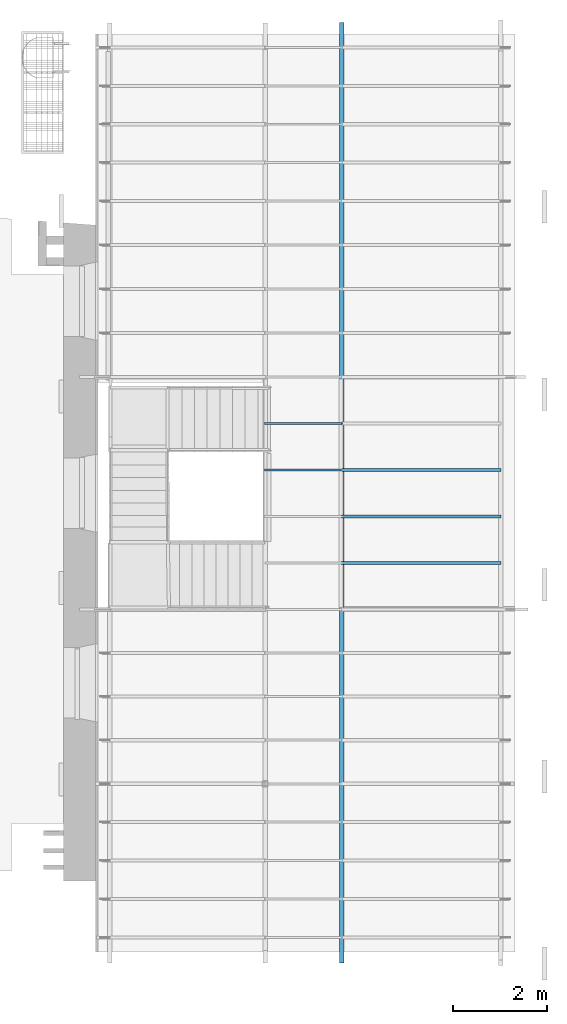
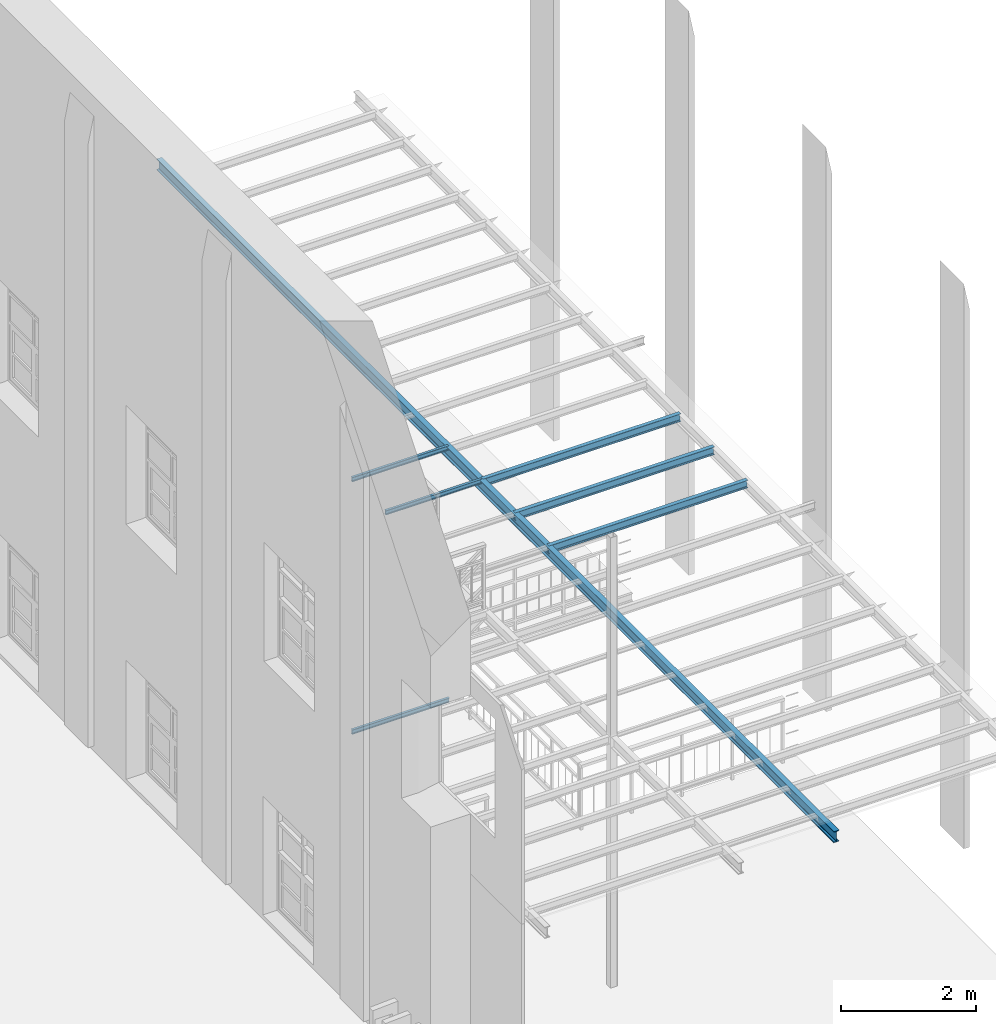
# One storey, part 14 of 33: 7 beams.
"""IFC2X3 building model written with IfcOpenShell, lengths in metres."""

from ifc_helpers import new_model, entity, si_unit, converted_unit, derived_unit, direction, frame, frame_2d, origin, place, context, subcontext, project, spatial, polyline, circle_curve, parameter, trimmed, segment, composite_curve, outline, extrude, material, type_object, element, save


model = new_model("IFC2X3")

# Units and contexts
model_context = context("Model", 3, precision=1e-05, world=origin(), true_north=direction((6.12303176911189e-17, 1.0)))
body_context = subcontext(model_context, "Body", "Model", "MODEL_VIEW")
ifc_project = project(units=[si_unit("LENGTHUNIT", "METRE"), si_unit("AREAUNIT", "SQUARE_METRE"), si_unit("VOLUMEUNIT", "CUBIC_METRE"), converted_unit("PLANEANGLEUNIT", "DEGREE", entity("IfcRatioMeasure", 0.0174532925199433), si_unit("PLANEANGLEUNIT", "RADIAN"), dimensions=[0, 0, 0, 0, 0, 0, 0]), si_unit("MASSUNIT", "GRAM", prefix="KILO"), derived_unit("MASSDENSITYUNIT", [(si_unit("MASSUNIT", "GRAM", prefix="KILO"), 1), (si_unit("LENGTHUNIT", "METRE"), -3)]), derived_unit("MOMENTOFINERTIAUNIT", [(si_unit("LENGTHUNIT", "METRE"), 4)]), si_unit("TIMEUNIT", "SECOND"), si_unit("FREQUENCYUNIT", "HERTZ"), si_unit("THERMODYNAMICTEMPERATUREUNIT", "DEGREE_CELSIUS"), derived_unit("THERMALTRANSMITTANCEUNIT", [(si_unit("MASSUNIT", "GRAM", prefix="KILO"), 1), (si_unit("THERMODYNAMICTEMPERATUREUNIT", "KELVIN"), -1), (si_unit("TIMEUNIT", "SECOND"), -3)]), derived_unit("VOLUMETRICFLOWRATEUNIT", [(si_unit("LENGTHUNIT", "METRE"), 3), (si_unit("TIMEUNIT", "SECOND"), -1)]), si_unit("ELECTRICCURRENTUNIT", "AMPERE"), si_unit("ELECTRICVOLTAGEUNIT", "VOLT"), si_unit("POWERUNIT", "WATT"), si_unit("FORCEUNIT", "NEWTON", prefix="KILO"), si_unit("ILLUMINANCEUNIT", "LUX"), si_unit("LUMINOUSFLUXUNIT", "LUMEN"), si_unit("LUMINOUSINTENSITYUNIT", "CANDELA"), derived_unit("USERDEFINED", [(si_unit("MASSUNIT", "GRAM", prefix="KILO"), -1), (si_unit("LENGTHUNIT", "METRE"), -2), (si_unit("TIMEUNIT", "SECOND"), 3), (si_unit("LUMINOUSFLUXUNIT", "LUMEN"), 1)]), derived_unit("LINEARVELOCITYUNIT", [(si_unit("LENGTHUNIT", "METRE"), 1), (si_unit("TIMEUNIT", "SECOND"), -1)]), si_unit("PRESSUREUNIT", "PASCAL"), derived_unit("USERDEFINED", [(si_unit("LENGTHUNIT", "METRE"), -2), (si_unit("MASSUNIT", "GRAM", prefix="KILO"), 1), (si_unit("TIMEUNIT", "SECOND"), -2)]), derived_unit("LINEARFORCEUNIT", [(si_unit("MASSUNIT", "GRAM", prefix="KILO"), 1), (si_unit("LENGTHUNIT", "METRE"), 1), (si_unit("TIMEUNIT", "SECOND"), -2), (si_unit("LENGTHUNIT", "METRE"), -1)]), derived_unit("PLANARFORCEUNIT", [(si_unit("MASSUNIT", "GRAM", prefix="KILO"), 1), (si_unit("LENGTHUNIT", "METRE"), 1), (si_unit("TIMEUNIT", "SECOND"), -2), (si_unit("LENGTHUNIT", "METRE"), -2)])], contexts=[model_context])

# Site, building, storey
site_placement = place(None, origin())
site = spatial("IfcSite", under=ifc_project, at=site_placement, Name="Superficie", CompositionType="ELEMENT")
building_placement = place(site_placement, origin())
building = spatial("IfcBuilding", under=site, at=building_placement, Name="Telegestiones", CompositionType="ELEMENT")
storey_placement = place(building_placement, frame((0.0, 0.0, 4.94)))
storey = spatial("IfcBuildingStorey", under=building, at=storey_placement, Name="Nivel 1_NPT", CompositionType="ELEMENT", Elevation=4.94)

# Beams
ifc_material = material(Name="Metal - Acero - 345 MPa")
beam_type_1 = type_object("IfcBeamType", Name="IPN - Secciones en I con alas cónicas:IPN 200", PredefinedType="NOTDEFINED")
beam_1_placement = place(storey_placement, frame((11.2748126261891, 13.4536072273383, 4.56), z_axis=(0.0, 0.0, 1.0), x_axis=(0.0, -1.0, 0.0)))
element("IfcBeam", 1, at=beam_1_placement, inside=storey, type_object=beam_type_1, material=ifc_material, Name="IPN - Secciones en I con alas cónicas:IPN 200", ObjectType="IPN - Secciones en I con alas cónicas:IPN 200", context=body_context, shape_type="SweptSolid", body=[
    extrude(outline(composite_curve([segment(polyline([(0.0957638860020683, -0.0450000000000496), (0.0999999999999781, -0.0450000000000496)]), True, "CONTINUOUS"), segment(polyline([(0.0999999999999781, -0.0450000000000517), (0.100000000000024, 0.0449999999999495)]), True, "CONTINUOUS"), segment(polyline([(0.100000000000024, 0.0449999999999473), (0.0957638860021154, 0.0449999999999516)]), True, "CONTINUOUS"), segment(trimmed(circle_curve(frame_2d((0.0957638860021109, 0.0404999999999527), x_axis=(0.0, 1.0)), 0.00449999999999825), [parameter(0.0)], [parameter(82.0303896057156)], True, "PARAMETER"), True, "CONTINUOUS"), segment(polyline([(0.0913073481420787, 0.0411239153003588), (0.0869794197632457, 0.0102101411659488)]), True, "CONTINUOUS"), segment(trimmed(circle_curve(frame_2d((0.0795518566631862, 0.0112499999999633), x_axis=(0.990341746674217, -0.138647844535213)), 0.00750000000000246), [parameter(277.969610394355)], [parameter(0.0)], True, "PARAMETER"), False, "CONTINUOUS"), segment(polyline([(0.0795518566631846, 0.00374999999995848), (-0.0795518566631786, 0.00375000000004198)]), True, "CONTINUOUS"), segment(trimmed(circle_curve(frame_2d((-0.0795518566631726, 0.0112500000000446), x_axis=(0.0, -1.0)), 0.00750000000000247), [parameter(277.969610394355)], [parameter(0.0)], True, "PARAMETER"), False, "CONTINUOUS"), segment(polyline([(-0.0869794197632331, 0.0102101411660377), (-0.0913073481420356, 0.0411239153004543)]), True, "CONTINUOUS"), segment(trimmed(circle_curve(frame_2d((-0.0957638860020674, 0.0405000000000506), x_axis=(0.990341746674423, 0.138647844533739)), 0.00449999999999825), [parameter(0.0)], [parameter(82.0303896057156)], True, "PARAMETER"), True, "CONTINUOUS"), segment(polyline([(-0.0957638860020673, 0.0450000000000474), (-0.0999999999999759, 0.0450000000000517)]), True, "CONTINUOUS"), segment(polyline([(-0.0999999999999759, 0.0450000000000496), (-0.100000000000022, -0.0449999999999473)]), True, "CONTINUOUS"), segment(polyline([(-0.100000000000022, -0.0449999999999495), (-0.0957638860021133, -0.0449999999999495)]), True, "CONTINUOUS"), segment(trimmed(circle_curve(frame_2d((-0.0957638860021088, -0.0404999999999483), x_axis=(0.0, -1.0)), 0.00449999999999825), [parameter(0.0)], [parameter(82.0303896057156)], True, "PARAMETER"), True, "CONTINUOUS"), segment(polyline([(-0.0913073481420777, -0.0411239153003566), (-0.0869794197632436, -0.0102101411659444)]), True, "CONTINUOUS"), segment(trimmed(circle_curve(frame_2d((-0.0795518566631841, -0.0112499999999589), x_axis=(-0.990341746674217, 0.138647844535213)), 0.00750000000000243), [parameter(277.969610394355)], [parameter(0.0)], True, "PARAMETER"), False, "CONTINUOUS"), segment(polyline([(-0.0795518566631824, -0.00374999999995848), (0.0795518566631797, -0.00375000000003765)]), True, "CONTINUOUS"), segment(trimmed(circle_curve(frame_2d((0.0795518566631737, -0.0112500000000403), x_axis=(0.0, 1.0)), 0.00750000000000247), [parameter(277.969610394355)], [parameter(0.0)], True, "PARAMETER"), False, "CONTINUOUS"), segment(polyline([(0.0869794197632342, -0.0102101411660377), (0.0913073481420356, -0.04112391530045)]), True, "CONTINUOUS"), segment(trimmed(circle_curve(frame_2d((0.0957638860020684, -0.0405000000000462), x_axis=(-0.990341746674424, -0.138647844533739)), 0.00449999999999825), [parameter(0.0)], [parameter(82.0303896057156)], True, "PARAMETER"), True, "CONTINUOUS")], self_intersect=False)), frame((-0.539999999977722, 0.0, -0.130000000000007), z_axis=(1.0, 0.0, 0.0), x_axis=(0.0, 0.0, -1.0)), (0.0, 0.0, 1.0), 20.0399999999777),
])
beam_type_2 = type_object("IfcBeamType", Name="IPN - Secciones en I con alas cónicas:IPN 140", PredefinedType="NOTDEFINED")
beam_2_placement = place(storey_placement, frame((11.2748126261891, 4.45520196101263, 4.56)))
element("IfcBeam", 2, at=beam_2_placement, inside=storey, type_object=beam_type_2, material=ifc_material, Name="IPN - Secciones en I con alas cónicas:IPN 140", ObjectType="IPN - Secciones en I con alas cónicas:IPN 140", context=body_context, shape_type="SweptSolid", body=[
    extrude(outline(composite_curve([segment(polyline([(0.066667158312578, -0.0330000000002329), (0.0699999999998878, -0.0330000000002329)]), True, "CONTINUOUS"), segment(polyline([(0.0699999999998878, -0.0330000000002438), (0.0700000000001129, 0.0329999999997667)]), True, "CONTINUOUS"), segment(polyline([(0.0700000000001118, 0.0329999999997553), (0.0666671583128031, 0.0329999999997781)]), True, "CONTINUOUS"), segment(trimmed(circle_curve(frame_2d((0.0666671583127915, 0.0295999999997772), x_axis=(0.0, 1.0)), 0.0034000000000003), [parameter(0.0)], [parameter(82.0303896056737)], True, "PARAMETER"), True, "CONTINUOUS"), segment(polyline([(0.0632999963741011, 0.0300714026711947), (0.0601763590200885, 0.00775970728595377)]), True, "CONTINUOUS"), segment(trimmed(circle_curve(frame_2d((0.0545314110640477, 0.00854999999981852), x_axis=(0.990341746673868, -0.138647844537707)), 0.00569999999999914), [parameter(277.969610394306)], [parameter(0.0)], True, "PARAMETER"), False, "CONTINUOUS"), segment(polyline([(0.0545314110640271, 0.0028499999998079), (-0.0545314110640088, 0.00285000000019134)]), True, "CONTINUOUS"), segment(trimmed(circle_curve(frame_2d((-0.0545314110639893, 0.00855000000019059), x_axis=(0.0, -1.0)), 0.00569999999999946), [parameter(277.969610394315)], [parameter(0.0)], True, "PARAMETER"), False, "CONTINUOUS"), segment(polyline([(-0.0601763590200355, 0.00775970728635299), (-0.0632999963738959, 0.0300714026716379)]), True, "CONTINUOUS"), segment(trimmed(circle_curve(frame_2d((-0.0666671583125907, 0.0296000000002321), x_axis=(0.990341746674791, 0.138647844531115)), 0.0034000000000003), [parameter(0.0)], [parameter(82.0303896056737)], True, "PARAMETER"), True, "CONTINUOUS"), segment(polyline([(-0.0666671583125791, 0.0330000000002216), (-0.0699999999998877, 0.0330000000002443)]), True, "CONTINUOUS"), segment(polyline([(-0.0699999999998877, 0.0330000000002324), (-0.0700000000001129, -0.0329999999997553)]), True, "CONTINUOUS"), segment(polyline([(-0.0700000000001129, -0.0329999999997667), (-0.0666671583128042, -0.0329999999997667)]), True, "CONTINUOUS"), segment(trimmed(circle_curve(frame_2d((-0.0666671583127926, -0.0295999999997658), x_axis=(0.0, -1.0)), 0.0034000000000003), [parameter(0.0)], [parameter(82.0303896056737)], True, "PARAMETER"), True, "CONTINUOUS"), segment(polyline([(-0.0632999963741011, -0.0300714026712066), (-0.0601763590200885, -0.00775970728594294)]), True, "CONTINUOUS"), segment(trimmed(circle_curve(frame_2d((-0.0545314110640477, -0.00854999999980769), x_axis=(-0.990341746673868, 0.138647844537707)), 0.00569999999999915), [parameter(277.969610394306)], [parameter(0.0)], True, "PARAMETER"), False, "CONTINUOUS"), segment(polyline([(-0.0545314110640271, -0.00284999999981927), (0.0545314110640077, -0.00285000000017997)]), True, "CONTINUOUS"), segment(trimmed(circle_curve(frame_2d((0.0545314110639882, -0.00855000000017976), x_axis=(0.0, 1.0)), 0.00569999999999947), [parameter(277.969610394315)], [parameter(0.0)], True, "PARAMETER"), False, "CONTINUOUS"), segment(polyline([(0.0601763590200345, -0.0077597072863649), (0.0632999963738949, -0.0300714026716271)]), True, "CONTINUOUS"), segment(trimmed(circle_curve(frame_2d((0.0666671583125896, -0.0296000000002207), x_axis=(-0.990341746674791, -0.138647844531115)), 0.0034000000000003), [parameter(0.0)], [parameter(82.0303896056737)], True, "PARAMETER"), True, "CONTINUOUS")], self_intersect=False)), frame((0.0039999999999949, 0.0, -0.100000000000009), z_axis=(1.0, 0.0, 0.0), x_axis=(0.0, 0.0, -1.0)), (0.0, 0.0, 1.0), 3.386),
])
beam_3_placement = place(storey_placement, frame((11.2748126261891, 3.46499932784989, 4.56)))
element("IfcBeam", 3, at=beam_3_placement, inside=storey, type_object=beam_type_2, material=ifc_material, Name="IPN - Secciones en I con alas cónicas:IPN 140", ObjectType="IPN - Secciones en I con alas cónicas:IPN 140", context=body_context, shape_type="SweptSolid", body=[
    extrude(outline(composite_curve([segment(polyline([(0.066667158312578, -0.0330000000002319), (0.0699999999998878, -0.0330000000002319)]), True, "CONTINUOUS"), segment(polyline([(0.0699999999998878, -0.0330000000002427), (0.0700000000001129, 0.0329999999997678)]), True, "CONTINUOUS"), segment(polyline([(0.0700000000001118, 0.0329999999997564), (0.0666671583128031, 0.0329999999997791)]), True, "CONTINUOUS"), segment(trimmed(circle_curve(frame_2d((0.0666671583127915, 0.0295999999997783), x_axis=(0.0, 1.0)), 0.0034000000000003), [parameter(0.0)], [parameter(82.0303896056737)], True, "PARAMETER"), True, "CONTINUOUS"), segment(polyline([(0.0632999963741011, 0.0300714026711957), (0.0601763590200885, 0.00775970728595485)]), True, "CONTINUOUS"), segment(trimmed(circle_curve(frame_2d((0.0545314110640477, 0.0085499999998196), x_axis=(0.990341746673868, -0.138647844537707)), 0.00569999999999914), [parameter(277.969610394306)], [parameter(0.0)], True, "PARAMETER"), False, "CONTINUOUS"), segment(polyline([(0.0545314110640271, 0.00284999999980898), (-0.0545314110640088, 0.00285000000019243)]), True, "CONTINUOUS"), segment(trimmed(circle_curve(frame_2d((-0.0545314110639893, 0.00855000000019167), x_axis=(0.0, -1.0)), 0.00569999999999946), [parameter(277.969610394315)], [parameter(0.0)], True, "PARAMETER"), False, "CONTINUOUS"), segment(polyline([(-0.0601763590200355, 0.00775970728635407), (-0.0632999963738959, 0.030071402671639)]), True, "CONTINUOUS"), segment(trimmed(circle_curve(frame_2d((-0.0666671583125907, 0.0296000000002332), x_axis=(0.990341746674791, 0.138647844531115)), 0.0034000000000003), [parameter(0.0)], [parameter(82.0303896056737)], True, "PARAMETER"), True, "CONTINUOUS"), segment(polyline([(-0.0666671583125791, 0.0330000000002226), (-0.0699999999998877, 0.0330000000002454)]), True, "CONTINUOUS"), segment(polyline([(-0.0699999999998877, 0.0330000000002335), (-0.0700000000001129, -0.0329999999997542)]), True, "CONTINUOUS"), segment(polyline([(-0.0700000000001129, -0.0329999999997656), (-0.0666671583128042, -0.0329999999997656)]), True, "CONTINUOUS"), segment(trimmed(circle_curve(frame_2d((-0.0666671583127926, -0.0295999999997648), x_axis=(0.0, -1.0)), 0.0034000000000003), [parameter(0.0)], [parameter(82.0303896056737)], True, "PARAMETER"), True, "CONTINUOUS"), segment(polyline([(-0.0632999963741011, -0.0300714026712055), (-0.0601763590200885, -0.00775970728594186)]), True, "CONTINUOUS"), segment(trimmed(circle_curve(frame_2d((-0.0545314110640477, -0.00854999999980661), x_axis=(-0.990341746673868, 0.138647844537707)), 0.00569999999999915), [parameter(277.969610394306)], [parameter(0.0)], True, "PARAMETER"), False, "CONTINUOUS"), segment(polyline([(-0.0545314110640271, -0.00284999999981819), (0.0545314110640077, -0.00285000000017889)]), True, "CONTINUOUS"), segment(trimmed(circle_curve(frame_2d((0.0545314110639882, -0.00855000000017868), x_axis=(0.0, 1.0)), 0.00569999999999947), [parameter(277.969610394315)], [parameter(0.0)], True, "PARAMETER"), False, "CONTINUOUS"), segment(polyline([(0.0601763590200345, -0.00775970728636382), (0.0632999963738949, -0.030071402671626)]), True, "CONTINUOUS"), segment(trimmed(circle_curve(frame_2d((0.0666671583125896, -0.0296000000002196), x_axis=(-0.990341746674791, -0.138647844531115)), 0.0034000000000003), [parameter(0.0)], [parameter(82.0303896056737)], True, "PARAMETER"), True, "CONTINUOUS")], self_intersect=False)), frame((-0.0150000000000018, 0.0, -0.100000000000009), z_axis=(1.0, 0.0, 0.0), x_axis=(0.0, 0.0, -1.0)), (0.0, 0.0, 1.0), 3.405),
])
beam_4_placement = place(storey_placement, frame((11.2748126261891, 2.47479669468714, 4.56)))
element("IfcBeam", 4, at=beam_4_placement, inside=storey, type_object=beam_type_2, material=ifc_material, Name="IPN - Secciones en I con alas cónicas:IPN 140", ObjectType="IPN - Secciones en I con alas cónicas:IPN 140", context=body_context, shape_type="SweptSolid", body=[
    extrude(outline(composite_curve([segment(polyline([(0.066667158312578, -0.0330000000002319), (0.0699999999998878, -0.0330000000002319)]), True, "CONTINUOUS"), segment(polyline([(0.0699999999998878, -0.0330000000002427), (0.0700000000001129, 0.0329999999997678)]), True, "CONTINUOUS"), segment(polyline([(0.0700000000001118, 0.0329999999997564), (0.0666671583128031, 0.0329999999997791)]), True, "CONTINUOUS"), segment(trimmed(circle_curve(frame_2d((0.0666671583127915, 0.0295999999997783), x_axis=(0.0, 1.0)), 0.0034000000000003), [parameter(0.0)], [parameter(82.0303896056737)], True, "PARAMETER"), True, "CONTINUOUS"), segment(polyline([(0.0632999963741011, 0.0300714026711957), (0.0601763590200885, 0.00775970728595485)]), True, "CONTINUOUS"), segment(trimmed(circle_curve(frame_2d((0.0545314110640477, 0.0085499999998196), x_axis=(0.990341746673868, -0.138647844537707)), 0.00569999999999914), [parameter(277.969610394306)], [parameter(0.0)], True, "PARAMETER"), False, "CONTINUOUS"), segment(polyline([(0.0545314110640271, 0.00284999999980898), (-0.0545314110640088, 0.00285000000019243)]), True, "CONTINUOUS"), segment(trimmed(circle_curve(frame_2d((-0.0545314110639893, 0.00855000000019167), x_axis=(0.0, -1.0)), 0.00569999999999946), [parameter(277.969610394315)], [parameter(0.0)], True, "PARAMETER"), False, "CONTINUOUS"), segment(polyline([(-0.0601763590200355, 0.00775970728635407), (-0.0632999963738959, 0.030071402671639)]), True, "CONTINUOUS"), segment(trimmed(circle_curve(frame_2d((-0.0666671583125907, 0.0296000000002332), x_axis=(0.990341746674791, 0.138647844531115)), 0.0034000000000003), [parameter(0.0)], [parameter(82.0303896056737)], True, "PARAMETER"), True, "CONTINUOUS"), segment(polyline([(-0.0666671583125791, 0.0330000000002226), (-0.0699999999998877, 0.0330000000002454)]), True, "CONTINUOUS"), segment(polyline([(-0.0699999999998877, 0.0330000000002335), (-0.0700000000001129, -0.0329999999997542)]), True, "CONTINUOUS"), segment(polyline([(-0.0700000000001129, -0.0329999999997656), (-0.0666671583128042, -0.0329999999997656)]), True, "CONTINUOUS"), segment(trimmed(circle_curve(frame_2d((-0.0666671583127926, -0.0295999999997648), x_axis=(0.0, -1.0)), 0.0034000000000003), [parameter(0.0)], [parameter(82.0303896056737)], True, "PARAMETER"), True, "CONTINUOUS"), segment(polyline([(-0.0632999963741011, -0.0300714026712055), (-0.0601763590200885, -0.00775970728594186)]), True, "CONTINUOUS"), segment(trimmed(circle_curve(frame_2d((-0.0545314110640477, -0.00854999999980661), x_axis=(-0.990341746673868, 0.138647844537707)), 0.00569999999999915), [parameter(277.969610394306)], [parameter(0.0)], True, "PARAMETER"), False, "CONTINUOUS"), segment(polyline([(-0.0545314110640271, -0.00284999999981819), (0.0545314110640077, -0.00285000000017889)]), True, "CONTINUOUS"), segment(trimmed(circle_curve(frame_2d((0.0545314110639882, -0.00855000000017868), x_axis=(0.0, 1.0)), 0.00569999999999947), [parameter(277.969610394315)], [parameter(0.0)], True, "PARAMETER"), False, "CONTINUOUS"), segment(polyline([(0.0601763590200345, -0.00775970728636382), (0.0632999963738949, -0.030071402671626)]), True, "CONTINUOUS"), segment(trimmed(circle_curve(frame_2d((0.0666671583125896, -0.0296000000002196), x_axis=(-0.990341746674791, -0.138647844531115)), 0.0034000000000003), [parameter(0.0)], [parameter(82.0303896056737)], True, "PARAMETER"), True, "CONTINUOUS")], self_intersect=False)), frame((-0.0150000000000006, 0.0, -0.100000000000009), z_axis=(1.0, 0.0, 0.0), x_axis=(0.0, 0.0, -1.0)), (0.0, 0.0, 1.0), 3.405),
])
beam_type_3 = type_object("IfcBeamType", Name="IPN - Secciones en I con alas cónicas:IPN 80", PredefinedType="NOTDEFINED")
beam_5_placement = place(storey_placement, frame((9.64481262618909, 5.44540459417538, 0.0)))
element("IfcBeam", 5, at=beam_5_placement, inside=storey, type_object=beam_type_3, material=ifc_material, Name="IPN - Secciones en I con alas cónicas:IPN 80", ObjectType="IPN - Secciones en I con alas cónicas:IPN 80", context=body_context, shape_type="SweptSolid", body=[
    extrude(outline(composite_curve([segment(polyline([(0.0375704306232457, -0.0210000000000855), (0.0399999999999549, -0.0210000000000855)]), True, "CONTINUOUS"), segment(polyline([(0.0399999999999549, -0.0210000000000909), (0.0400000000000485, 0.0209999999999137)]), True, "CONTINUOUS"), segment(polyline([(0.0400000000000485, 0.0209999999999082), (0.0375704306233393, 0.0209999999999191)]), True, "CONTINUOUS"), segment(trimmed(circle_curve(frame_2d((0.0375704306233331, 0.0186999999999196), x_axis=(0.0, 1.0)), 0.00229999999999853), [parameter(0.0)], [parameter(82.0303896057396)], True, "PARAMETER"), True, "CONTINUOUS"), segment(polyline([(0.0352926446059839, 0.0190188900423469), (0.0333732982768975, 0.00530927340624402)]), True, "CONTINUOUS"), segment(trimmed(circle_curve(frame_2d((0.0295109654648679, 0.00584999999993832), x_axis=(0.99034174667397, -0.138647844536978)), 0.00390000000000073), [parameter(277.96961039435)], [parameter(0.0)], True, "PARAMETER"), False, "CONTINUOUS"), segment(polyline([(0.0295109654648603, 0.00194999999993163), (-0.0295109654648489, 0.00195000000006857)]), True, "CONTINUOUS"), segment(trimmed(circle_curve(frame_2d((-0.0295109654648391, 0.00585000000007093), x_axis=(0.0, -1.0)), 0.00390000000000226), [parameter(277.969610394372)], [parameter(0.0)], True, "PARAMETER"), False, "CONTINUOUS"), segment(polyline([(-0.0333732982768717, 0.00530927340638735), (-0.035292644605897, 0.0190188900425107)]), True, "CONTINUOUS"), segment(trimmed(circle_curve(frame_2d((-0.037570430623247, 0.0187000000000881), x_axis=(0.990341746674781, 0.138647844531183)), 0.00229999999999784), [parameter(0.0)], [parameter(82.0303896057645)], True, "PARAMETER"), True, "CONTINUOUS"), segment(polyline([(-0.037570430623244, 0.0210000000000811), (-0.0399999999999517, 0.0210000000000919)]), True, "CONTINUOUS"), segment(polyline([(-0.0399999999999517, 0.0210000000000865), (-0.0400000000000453, -0.0209999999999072)]), True, "CONTINUOUS"), segment(polyline([(-0.0400000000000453, -0.0209999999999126), (-0.0375704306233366, -0.0209999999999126)]), True, "CONTINUOUS"), segment(trimmed(circle_curve(frame_2d((-0.0375704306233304, -0.0186999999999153), x_axis=(0.0, -1.0)), 0.00229999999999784), [parameter(0.0)], [parameter(82.0303896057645)], True, "PARAMETER"), True, "CONTINUOUS"), segment(polyline([(-0.0352926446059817, -0.0190188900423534), (-0.0333732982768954, -0.0053092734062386)]), True, "CONTINUOUS"), segment(trimmed(circle_curve(frame_2d((-0.0295109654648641, -0.00584999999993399), x_axis=(-0.990341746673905, 0.138647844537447)), 0.00390000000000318), [parameter(277.969610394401)], [parameter(0.0)], True, "PARAMETER"), False, "CONTINUOUS"), segment(polyline([(-0.0295109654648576, -0.00194999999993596), (0.0295109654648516, -0.00195000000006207)]), True, "CONTINUOUS"), segment(trimmed(circle_curve(frame_2d((0.0295109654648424, -0.00585000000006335), x_axis=(0.0, 1.0)), 0.00390000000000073), [parameter(277.96961039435)], [parameter(0.0)], True, "PARAMETER"), False, "CONTINUOUS"), segment(polyline([(0.0333732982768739, -0.00530927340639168), (0.0352926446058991, -0.0190188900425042)]), True, "CONTINUOUS"), segment(trimmed(circle_curve(frame_2d((0.0375704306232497, -0.0187000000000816), x_axis=(-0.990341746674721, -0.138647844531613)), 0.00229999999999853), [parameter(0.0)], [parameter(82.0303896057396)], True, "PARAMETER"), True, "CONTINUOUS")], self_intersect=False)), frame((-0.0149999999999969, 0.0, -0.0700000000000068), z_axis=(1.0, 0.0, 0.0), x_axis=(0.0, 0.0, -1.0)), (0.0, 0.0, 1.0), 1.66),
])
beam_6_placement = place(storey_placement, frame((9.64481262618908, 4.45520196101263, 4.56)))
element("IfcBeam", 6, at=beam_6_placement, inside=storey, type_object=beam_type_3, material=ifc_material, Name="IPN - Secciones en I con alas cónicas:IPN 80", ObjectType="IPN - Secciones en I con alas cónicas:IPN 80", context=body_context, shape_type="SweptSolid", body=[
    extrude(outline(composite_curve([segment(polyline([(0.0375704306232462, -0.021000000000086), (0.0399999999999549, -0.021000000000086)]), True, "CONTINUOUS"), segment(polyline([(0.0399999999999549, -0.0210000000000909), (0.0400000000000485, 0.0209999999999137)]), True, "CONTINUOUS"), segment(polyline([(0.0400000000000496, 0.0209999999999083), (0.0375704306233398, 0.0209999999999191)]), True, "CONTINUOUS"), segment(trimmed(circle_curve(frame_2d((0.0375704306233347, 0.0186999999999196), x_axis=(0.0, 1.0)), 0.00229999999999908), [parameter(0.0)], [parameter(82.0303896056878)], True, "PARAMETER"), True, "CONTINUOUS"), segment(polyline([(0.035292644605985, 0.019018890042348), (0.0333732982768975, 0.00530927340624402)]), True, "CONTINUOUS"), segment(trimmed(circle_curve(frame_2d((0.0295109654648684, 0.00584999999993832), x_axis=(0.990341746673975, -0.13864784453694)), 0.00390000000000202), [parameter(277.969610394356)], [parameter(0.0)], True, "PARAMETER"), False, "CONTINUOUS"), segment(polyline([(0.0295109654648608, 0.00194999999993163), (-0.0295109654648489, 0.00195000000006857)]), True, "CONTINUOUS"), segment(trimmed(circle_curve(frame_2d((-0.0295109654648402, 0.00585000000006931), x_axis=(0.0, -1.0)), 0.00390000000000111), [parameter(277.969610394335)], [parameter(0.0)], True, "PARAMETER"), False, "CONTINUOUS"), segment(polyline([(-0.0333732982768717, 0.00530927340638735), (-0.035292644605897, 0.0190188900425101)]), True, "CONTINUOUS"), segment(trimmed(circle_curve(frame_2d((-0.0375704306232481, 0.0187000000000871), x_axis=(0.990341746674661, 0.138647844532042)), 0.00229999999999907), [parameter(0.0)], [parameter(82.0303896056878)], True, "PARAMETER"), True, "CONTINUOUS"), segment(polyline([(-0.037570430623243, 0.0210000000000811), (-0.0399999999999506, 0.0210000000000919)]), True, "CONTINUOUS"), segment(polyline([(-0.0399999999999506, 0.021000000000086), (-0.0400000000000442, -0.0209999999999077)]), True, "CONTINUOUS"), segment(polyline([(-0.0400000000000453, -0.0209999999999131), (-0.0375704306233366, -0.0209999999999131)]), True, "CONTINUOUS"), segment(trimmed(circle_curve(frame_2d((-0.0375704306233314, -0.0186999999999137), x_axis=(0.0, -1.0)), 0.00229999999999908), [parameter(0.0)], [parameter(82.0303896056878)], True, "PARAMETER"), True, "CONTINUOUS"), segment(polyline([(-0.0352926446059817, -0.0190188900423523), (-0.0333732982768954, -0.00530927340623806)]), True, "CONTINUOUS"), segment(trimmed(circle_curve(frame_2d((-0.0295109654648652, -0.0058499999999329), x_axis=(-0.990341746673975, 0.13864784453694)), 0.00390000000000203), [parameter(277.969610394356)], [parameter(0.0)], True, "PARAMETER"), False, "CONTINUOUS"), segment(polyline([(-0.0295109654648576, -0.0019499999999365), (0.0295109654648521, -0.00195000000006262)]), True, "CONTINUOUS"), segment(trimmed(circle_curve(frame_2d((0.0295109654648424, -0.0058500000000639), x_axis=(0.0, 1.0)), 0.00390000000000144), [parameter(277.969610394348)], [parameter(0.0)], True, "PARAMETER"), False, "CONTINUOUS"), segment(polyline([(0.0333732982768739, -0.00530927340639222), (0.0352926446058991, -0.0190188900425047)]), True, "CONTINUOUS"), segment(trimmed(circle_curve(frame_2d((0.0375704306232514, -0.0187000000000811), x_axis=(-0.990341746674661, -0.138647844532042)), 0.00229999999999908), [parameter(0.0)], [parameter(82.0303896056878)], True, "PARAMETER"), True, "CONTINUOUS")], self_intersect=False)), frame((-0.0149999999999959, 0.0, -0.0700000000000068), z_axis=(1.0, 0.0, 0.0), x_axis=(0.0, 0.0, -1.0)), (0.0, 0.0, 1.0), 1.641),
])
beam_7_placement = place(storey_placement, frame((9.64481262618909, 5.44540459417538, 4.56)))
element("IfcBeam", 7, at=beam_7_placement, inside=storey, type_object=beam_type_3, material=ifc_material, Name="IPN - Secciones en I con alas cónicas:IPN 80", ObjectType="IPN - Secciones en I con alas cónicas:IPN 80", context=body_context, shape_type="SweptSolid", body=[
    extrude(outline(composite_curve([segment(polyline([(0.0375704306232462, -0.0210000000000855), (0.0399999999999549, -0.0210000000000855)]), True, "CONTINUOUS"), segment(polyline([(0.0399999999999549, -0.0210000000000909), (0.0400000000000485, 0.0209999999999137)]), True, "CONTINUOUS"), segment(polyline([(0.0400000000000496, 0.0209999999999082), (0.0375704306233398, 0.0209999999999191)]), True, "CONTINUOUS"), segment(trimmed(circle_curve(frame_2d((0.0375704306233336, 0.0186999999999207), x_axis=(0.0, 1.0)), 0.00229999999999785), [parameter(0.0)], [parameter(82.0303896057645)], True, "PARAMETER"), True, "CONTINUOUS"), segment(polyline([(0.035292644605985, 0.0190188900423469), (0.0333732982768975, 0.00530927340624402)]), True, "CONTINUOUS"), segment(trimmed(circle_curve(frame_2d((0.0295109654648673, 0.00584999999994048), x_axis=(0.990341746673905, -0.138647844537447)), 0.00390000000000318), [parameter(277.969610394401)], [parameter(0.0)], True, "PARAMETER"), False, "CONTINUOUS"), segment(polyline([(0.0295109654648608, 0.00194999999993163), (-0.0295109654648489, 0.00195000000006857)]), True, "CONTINUOUS"), segment(trimmed(circle_curve(frame_2d((-0.0295109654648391, 0.00585000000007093), x_axis=(0.0, -1.0)), 0.00390000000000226), [parameter(277.969610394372)], [parameter(0.0)], True, "PARAMETER"), False, "CONTINUOUS"), segment(polyline([(-0.0333732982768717, 0.00530927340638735), (-0.035292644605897, 0.0190188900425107)]), True, "CONTINUOUS"), segment(trimmed(circle_curve(frame_2d((-0.037570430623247, 0.0187000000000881), x_axis=(0.990341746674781, 0.138647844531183)), 0.00229999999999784), [parameter(0.0)], [parameter(82.0303896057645)], True, "PARAMETER"), True, "CONTINUOUS"), segment(polyline([(-0.037570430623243, 0.0210000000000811), (-0.0399999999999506, 0.0210000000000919)]), True, "CONTINUOUS"), segment(polyline([(-0.0399999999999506, 0.0210000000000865), (-0.0400000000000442, -0.0209999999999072)]), True, "CONTINUOUS"), segment(polyline([(-0.0400000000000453, -0.0209999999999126), (-0.0375704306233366, -0.0209999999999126)]), True, "CONTINUOUS"), segment(trimmed(circle_curve(frame_2d((-0.0375704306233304, -0.0186999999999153), x_axis=(0.0, -1.0)), 0.00229999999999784), [parameter(0.0)], [parameter(82.0303896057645)], True, "PARAMETER"), True, "CONTINUOUS"), segment(polyline([(-0.0352926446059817, -0.0190188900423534), (-0.0333732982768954, -0.0053092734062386)]), True, "CONTINUOUS"), segment(trimmed(circle_curve(frame_2d((-0.0295109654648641, -0.00584999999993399), x_axis=(-0.990341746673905, 0.138647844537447)), 0.00390000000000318), [parameter(277.969610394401)], [parameter(0.0)], True, "PARAMETER"), False, "CONTINUOUS"), segment(polyline([(-0.0295109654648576, -0.00194999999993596), (0.0295109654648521, -0.00195000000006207)]), True, "CONTINUOUS"), segment(trimmed(circle_curve(frame_2d((0.0295109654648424, -0.00585000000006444), x_axis=(0.0, 1.0)), 0.00390000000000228), [parameter(277.969610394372)], [parameter(0.0)], True, "PARAMETER"), False, "CONTINUOUS"), segment(polyline([(0.0333732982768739, -0.00530927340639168), (0.0352926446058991, -0.0190188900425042)]), True, "CONTINUOUS"), segment(trimmed(circle_curve(frame_2d((0.0375704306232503, -0.0187000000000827), x_axis=(-0.990341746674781, -0.138647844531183)), 0.00229999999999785), [parameter(0.0)], [parameter(82.0303896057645)], True, "PARAMETER"), True, "CONTINUOUS")], self_intersect=False)), frame((-0.0149999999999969, 0.0, -0.0700000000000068), z_axis=(1.0, 0.0, 0.0), x_axis=(0.0, 0.0, -1.0)), (0.0, 0.0, 1.0), 1.645),
])

save(model, "model.ifc")
